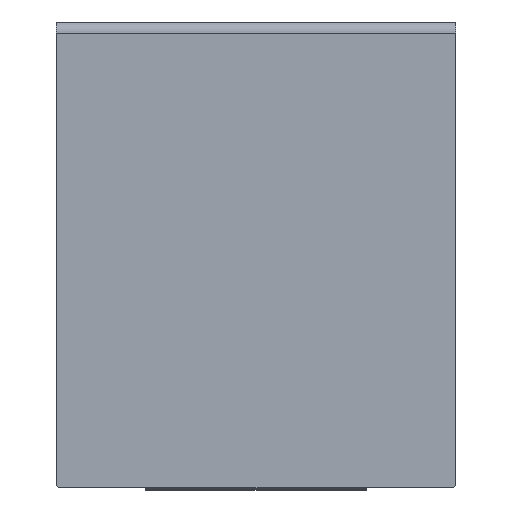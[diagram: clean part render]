
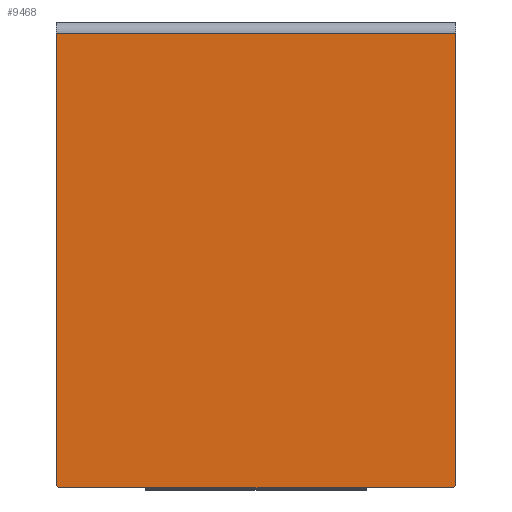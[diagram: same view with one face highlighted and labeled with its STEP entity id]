
A CAD part, left-side view. The second image highlights one B-rep face of the part: STEP entity #9468.
In plain terms, the highlighted planar face has unit normal (-1, 0, 0).
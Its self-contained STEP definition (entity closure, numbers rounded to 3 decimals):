
#127 = EDGE_CURVE ( 'NONE', #1388, #3817, #3360, .T. ) ;
#143 = AXIS2_PLACEMENT_3D ( 'NONE', #1605, #6519, #1636 ) ;
#339 = VECTOR ( 'NONE', #6184, 1000. ) ;
#381 = DIRECTION ( 'NONE',  ( -1., 0., 0. ) ) ;
#892 = CARTESIAN_POINT ( 'NONE',  ( 0., 90., -2.5 ) ) ;
#950 = CARTESIAN_POINT ( 'NONE',  ( 0., 0., 0. ) ) ;
#1190 = VECTOR ( 'NONE', #4196, 1000. ) ;
#1388 = VERTEX_POINT ( 'NONE', #7615 ) ;
#1551 = VECTOR ( 'NONE', #4463, 1000. ) ;
#1601 = CARTESIAN_POINT ( 'NONE',  ( 0., 90., -104. ) ) ;
#1605 = CARTESIAN_POINT ( 'NONE',  ( 0., 0., 0. ) ) ;
#1616 = ORIENTED_EDGE ( 'NONE', *, *, #7833, .F. ) ;
#1636 = DIRECTION ( 'NONE',  ( 0., 0., -1. ) ) ;
#2000 = LINE ( 'NONE', #4172, #8238 ) ;
#2020 = ORIENTED_EDGE ( 'NONE', *, *, #127, .T. ) ;
#2188 = EDGE_CURVE ( 'NONE', #7605, #4693, #4608, .T. ) ;
#2779 = LINE ( 'NONE', #5358, #339 ) ;
#3114 = ORIENTED_EDGE ( 'NONE', *, *, #2188, .T. ) ;
#3360 = LINE ( 'NONE', #950, #1190 ) ;
#3707 = CARTESIAN_POINT ( 'NONE',  ( 0., 89., -104. ) ) ;
#3817 = VERTEX_POINT ( 'NONE', #5835 ) ;
#3935 = ORIENTED_EDGE ( 'NONE', *, *, #7157, .T. ) ;
#4168 = ORIENTED_EDGE ( 'NONE', *, *, #8087, .T. ) ;
#4172 = CARTESIAN_POINT ( 'NONE',  ( 0., 0., -105. ) ) ;
#4196 = DIRECTION ( 'NONE',  ( 0., 0., 1. ) ) ;
#4463 = DIRECTION ( 'NONE',  ( 0., 0., -1. ) ) ;
#4525 = DIRECTION ( 'NONE',  ( 0., 0., -1. ) ) ;
#4608 = LINE ( 'NONE', #9376, #1551 ) ;
#4693 = VERTEX_POINT ( 'NONE', #1601 ) ;
#4863 = AXIS2_PLACEMENT_3D ( 'NONE', #5293, #381, #6104 ) ;
#5038 = DIRECTION ( 'NONE',  ( 0., -1., 0. ) ) ;
#5293 = CARTESIAN_POINT ( 'NONE',  ( 0., 1., -104. ) ) ;
#5358 = CARTESIAN_POINT ( 'NONE',  ( 0., 0., -2.5 ) ) ;
#5835 = CARTESIAN_POINT ( 'NONE',  ( 0., 0., -2.5 ) ) ;
#5934 = VERTEX_POINT ( 'NONE', #6546 ) ;
#6104 = DIRECTION ( 'NONE',  ( 0., 0., -1. ) ) ;
#6184 = DIRECTION ( 'NONE',  ( 0., -1., 0. ) ) ;
#6519 = DIRECTION ( 'NONE',  ( 1., 0., 0. ) ) ;
#6546 = CARTESIAN_POINT ( 'NONE',  ( 0., 89., -105. ) ) ;
#6794 = ORIENTED_EDGE ( 'NONE', *, *, #7190, .T. ) ;
#6895 = VERTEX_POINT ( 'NONE', #7359 ) ;
#7070 = FACE_OUTER_BOUND ( 'NONE', #9316, .T. ) ;
#7157 = EDGE_CURVE ( 'NONE', #6895, #1388, #8283, .T. ) ;
#7190 = EDGE_CURVE ( 'NONE', #4693, #5934, #9189, .T. ) ;
#7359 = CARTESIAN_POINT ( 'NONE',  ( 0., 1., -105. ) ) ;
#7605 = VERTEX_POINT ( 'NONE', #892 ) ;
#7615 = CARTESIAN_POINT ( 'NONE',  ( 0., 0., -104. ) ) ;
#7833 = EDGE_CURVE ( 'NONE', #7605, #3817, #2779, .T. ) ;
#8087 = EDGE_CURVE ( 'NONE', #5934, #6895, #2000, .T. ) ;
#8118 = AXIS2_PLACEMENT_3D ( 'NONE', #3707, #9422, #4525 ) ;
#8238 = VECTOR ( 'NONE', #5038, 1000. ) ;
#8283 = CIRCLE ( 'NONE', #4863, 1. ) ;
#8945 = PLANE ( 'NONE',  #143 ) ;
#9189 = CIRCLE ( 'NONE', #8118, 1. ) ;
#9316 = EDGE_LOOP ( 'NONE', ( #3114, #6794, #4168, #3935, #2020, #1616 ) ) ;
#9376 = CARTESIAN_POINT ( 'NONE',  ( 0., 90., 0. ) ) ;
#9422 = DIRECTION ( 'NONE',  ( -1., 0., 0. ) ) ;
#9468 = ADVANCED_FACE ( 'NONE', ( #7070 ), #8945, .F. ) ;
